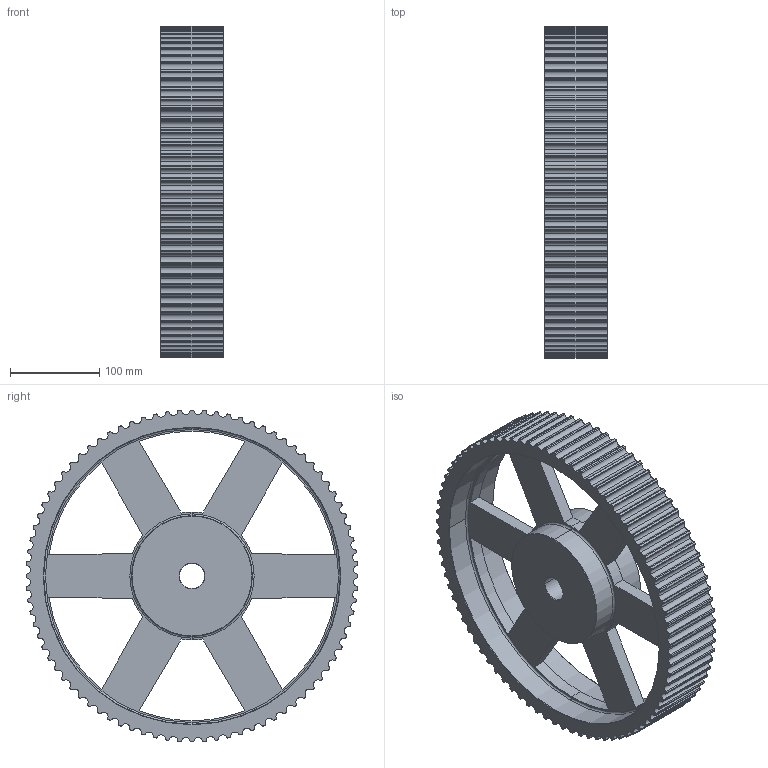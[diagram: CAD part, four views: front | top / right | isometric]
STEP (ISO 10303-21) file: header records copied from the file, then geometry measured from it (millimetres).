
FILE_DESCRIPTION(('STEP AP203'),'1');
FILE_NAME('84_-_14_m_55.stp','2022-04-28T07:50:41',('TraceParts'),('TraceParts S.A.'),'Spatial InterOp 3D',' ',' ');
FILE_SCHEMA(('CONFIG_CONTROL_DESIGN'));
Length unit declared in the file: millimetre
Products named in the file (1): 1
Bounding box: 70 x 371.54 x 371.54 mm (x, y, z)
Volume: 2727882.4 mm3; surface area: 351992.6 mm2
Topology: 1 solids, 1 shells, 484 faces, 1422 edges, 944 vertices
Faces by surface type: cylinder 446, plane 18, cone 12, torus 8
Entity records: 16730 total; most frequent: DIRECTION 3320, CARTESIAN_POINT 2851, ORIENTED_EDGE 2844, EDGE_CURVE 1422, AXIS2_PLACEMENT_3D 1413, VERTEX_POINT 944, CIRCLE 928, EDGE_LOOP 502
